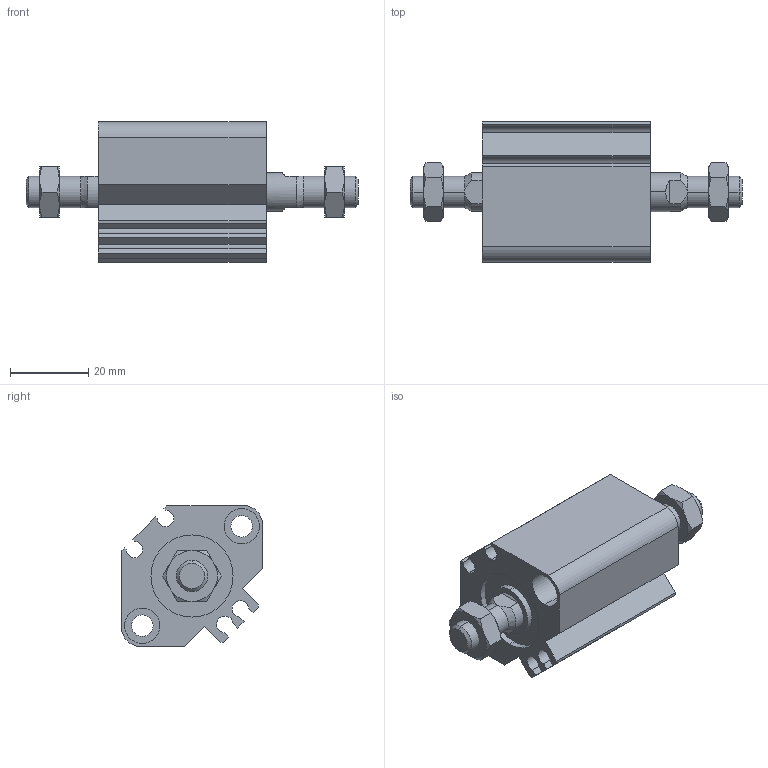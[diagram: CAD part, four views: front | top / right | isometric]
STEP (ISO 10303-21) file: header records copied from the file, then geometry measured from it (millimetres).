
FILE_DESCRIPTION (( 'STEP AP203' ), '1' );
FILE_NAME ('CCMB20-5M-P.STEP', '2020-08-10T11:19:59', ( '' ), ( '' ), 'SwSTEP 2.0', 'SolidWorks 2019', '' );
FILE_SCHEMA (( 'CONFIG_CONTROL_DESIGN' ));
Length unit declared in the file: millimetre
Products named in the file (1): CCMB20-5M-P
Bounding box: 85 x 36 x 36 mm (x, y, z)
Volume: 43133 mm3; surface area: 18611.5 mm2
Topology: 4 solids, 4 shells, 166 faces, 384 edges, 240 vertices
Faces by surface type: plane 66, cylinder 56, cone 44
Entity records: 5367 total; most frequent: CARTESIAN_POINT 1507, DIRECTION 806, ORIENTED_EDGE 768, EDGE_CURVE 384, AXIS2_PLACEMENT_3D 319, VERTEX_POINT 240, EDGE_LOOP 190, LINE 168
